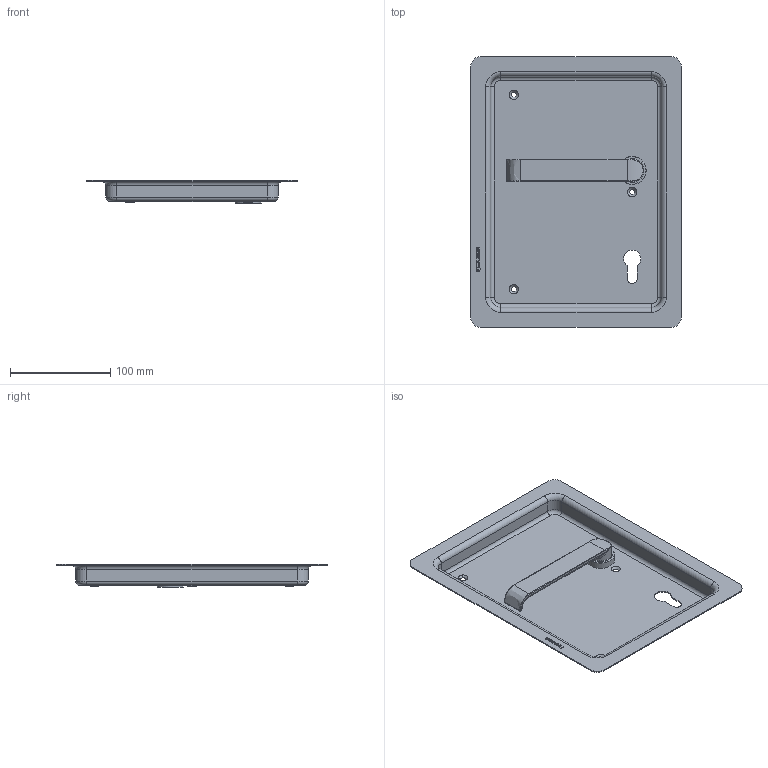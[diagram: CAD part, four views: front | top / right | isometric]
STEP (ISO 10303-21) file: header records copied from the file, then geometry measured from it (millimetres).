
FILE_DESCRIPTION(/* description */ (''),/* implementation_level */ '2;1');
FILE_NAME(/* name */ 'C:\ADSK_DMS_WS\Designs\Vorschläge\Loc Schalen\Muschel Serie 6\S6.20.D1Links\Heusser-Muschel S6.20.D1.388L.stp',/* time_stamp */ '2020-10-14T15:40:12+02:00',/* author */ ('gm'),/* organization */ (''),/* preprocessor_version */ 'ST-DEVELOPER v16.5',/* originating_system */ 'Autodesk Inventor 2017',/* authorisation */ '');
FILE_SCHEMA (('AUTOMOTIVE_DESIGN { 1 0 10303 214 3 1 1 }'));
Length unit declared in the file: millimetre
Products named in the file (1): S6.20.D1.0L
Bounding box: 210 x 270 x 23 mm (x, y, z)
Volume: 90363.7 mm3; surface area: 149434.5 mm2
Topology: 1 solids, 2 shells, 306 faces, 768 edges, 487 vertices
Faces by surface type: plane 132, bspline 78, cylinder 61, torus 19, cone 16
Full cylindrical faces by diameter (mm): 1.7 x2, 6 x1, 14.2 x1, 16 x3, 18 x1, 19 x1, 19.1 x1, 22 x1, 23 x1, 23.2 x1, 24 x1, 25 x1, 26 x1, 28 x1
Entity records: 10230 total; most frequent: CARTESIAN_POINT 3010, ORIENTED_EDGE 1448, DIRECTION 1278, EDGE_CURVE 724, VERTEX_POINT 480, AXIS2_PLACEMENT_3D 439, LINE 400, VECTOR 400
